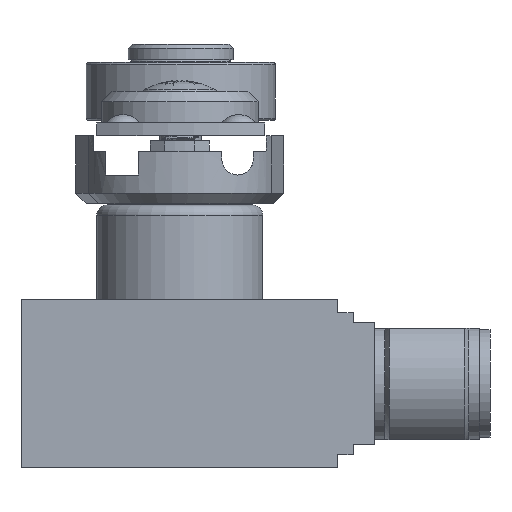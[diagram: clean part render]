
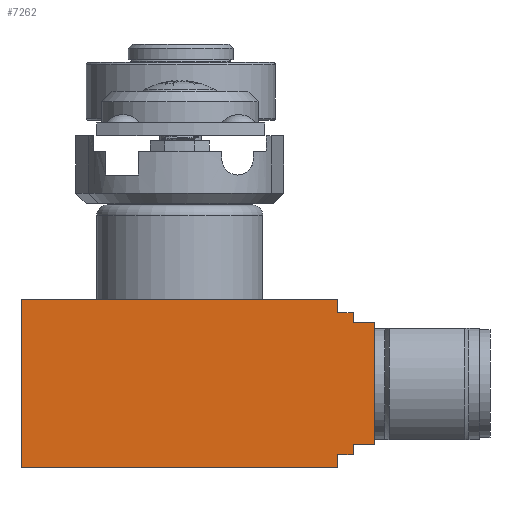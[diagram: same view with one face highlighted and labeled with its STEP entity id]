
A CAD part, front view. The second image highlights one B-rep face of the part: STEP entity #7262.
In plain terms, the highlighted planar face has unit normal (0, -1, 0) as drawn and (0, 0, -1) by its records, which use the part's own axes.
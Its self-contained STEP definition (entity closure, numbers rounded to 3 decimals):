
#277=PLANE('',#7960);
#500=FACE_OUTER_BOUND('',#915,.T.);
#915=EDGE_LOOP('',(#5072,#5073,#5074,#5075,#5076,#5077,#5078,#5079,#5080,
#5081,#5082,#5083));
#1364=LINE('',#11210,#1981);
#1367=LINE('',#11214,#1984);
#1369=LINE('',#11219,#1986);
#1371=LINE('',#11222,#1988);
#1372=LINE('',#11224,#1989);
#1379=LINE('',#11281,#1996);
#1382=LINE('',#11288,#1999);
#1385=LINE('',#11293,#2002);
#1386=LINE('',#11295,#2003);
#1387=LINE('',#11298,#2004);
#1388=LINE('',#11300,#2005);
#1389=LINE('',#11301,#2006);
#1981=VECTOR('',#8943,1.25);
#1984=VECTOR('',#8946,1.25);
#1986=VECTOR('',#8950,16.);
#1988=VECTOR('',#8954,30.);
#1989=VECTOR('',#8957,30.);
#1996=VECTOR('',#8990,0.95);
#1999=VECTOR('',#8995,0.95);
#2002=VECTOR('',#9002,1.5);
#2003=VECTOR('',#9005,1.5);
#2004=VECTOR('',#9008,2.);
#2005=VECTOR('',#9009,11.6);
#2006=VECTOR('',#9010,2.);
#3012=VERTEX_POINT('',#11203);
#3014=VERTEX_POINT('',#11207);
#3015=VERTEX_POINT('',#11209);
#3016=VERTEX_POINT('',#11212);
#3017=VERTEX_POINT('',#11216);
#3018=VERTEX_POINT('',#11218);
#3028=VERTEX_POINT('',#11274);
#3030=VERTEX_POINT('',#11278);
#3031=VERTEX_POINT('',#11280);
#3034=VERTEX_POINT('',#11286);
#3035=VERTEX_POINT('',#11297);
#3036=VERTEX_POINT('',#11299);
#3788=EDGE_CURVE('',#3014,#3015,#1364,.T.);
#3791=EDGE_CURVE('',#3016,#3012,#1367,.T.);
#3793=EDGE_CURVE('',#3017,#3018,#1369,.T.);
#3795=EDGE_CURVE('',#3015,#3017,#1371,.T.);
#3796=EDGE_CURVE('',#3018,#3016,#1372,.T.);
#3816=EDGE_CURVE('',#3031,#3030,#1379,.T.);
#3820=EDGE_CURVE('',#3028,#3034,#1382,.T.);
#3823=EDGE_CURVE('',#3014,#3031,#1385,.T.);
#3824=EDGE_CURVE('',#3012,#3034,#1386,.T.);
#3825=EDGE_CURVE('',#3030,#3035,#1387,.T.);
#3826=EDGE_CURVE('',#3035,#3036,#1388,.T.);
#3827=EDGE_CURVE('',#3028,#3036,#1389,.T.);
#5072=ORIENTED_EDGE('',*,*,#3825,.T.);
#5073=ORIENTED_EDGE('',*,*,#3826,.T.);
#5074=ORIENTED_EDGE('',*,*,#3827,.F.);
#5075=ORIENTED_EDGE('',*,*,#3820,.T.);
#5076=ORIENTED_EDGE('',*,*,#3824,.F.);
#5077=ORIENTED_EDGE('',*,*,#3791,.F.);
#5078=ORIENTED_EDGE('',*,*,#3796,.F.);
#5079=ORIENTED_EDGE('',*,*,#3793,.F.);
#5080=ORIENTED_EDGE('',*,*,#3795,.F.);
#5081=ORIENTED_EDGE('',*,*,#3788,.F.);
#5082=ORIENTED_EDGE('',*,*,#3823,.T.);
#5083=ORIENTED_EDGE('',*,*,#3816,.T.);
#7262=ADVANCED_FACE('',(#500),#277,.T.);
#7960=AXIS2_PLACEMENT_3D('',#11296,#9006,#9007);
#8943=DIRECTION('',(0.,1.,0.));
#8946=DIRECTION('',(0.,1.,0.));
#8950=DIRECTION('',(0.,-1.,0.));
#8954=DIRECTION('',(-1.,0.,0.));
#8957=DIRECTION('',(1.,0.,0.));
#8990=DIRECTION('',(0.,-1.,0.));
#8995=DIRECTION('',(0.,-1.,0.));
#9002=DIRECTION('',(1.,0.,0.));
#9005=DIRECTION('',(1.,0.,0.));
#9006=DIRECTION('center_axis',(0.,0.,-1.));
#9007=DIRECTION('ref_axis',(-1.,0.,0.));
#9008=DIRECTION('',(1.,0.,0.));
#9009=DIRECTION('',(0.,-1.,0.));
#9010=DIRECTION('',(1.,0.,0.));
#11203=CARTESIAN_POINT('',(15.,-14.75,-43.));
#11207=CARTESIAN_POINT('',(15.,-1.25,-43.));
#11209=CARTESIAN_POINT('',(15.,0.,-43.));
#11210=CARTESIAN_POINT('',(15.,-1.25,-43.));
#11212=CARTESIAN_POINT('',(15.,-16.,-43.));
#11214=CARTESIAN_POINT('',(15.,-16.,-43.));
#11216=CARTESIAN_POINT('',(-15.,0.,-43.));
#11218=CARTESIAN_POINT('',(-15.,-16.,-43.));
#11219=CARTESIAN_POINT('',(-15.,0.,-43.));
#11222=CARTESIAN_POINT('',(15.,0.,-43.));
#11224=CARTESIAN_POINT('',(-15.,-16.,-43.));
#11274=CARTESIAN_POINT('',(16.5,-13.8,-43.));
#11278=CARTESIAN_POINT('',(16.5,-2.2,-43.));
#11280=CARTESIAN_POINT('',(16.5,-1.25,-43.));
#11281=CARTESIAN_POINT('',(16.5,-1.25,-43.));
#11286=CARTESIAN_POINT('',(16.5,-14.75,-43.));
#11288=CARTESIAN_POINT('',(16.5,-13.8,-43.));
#11293=CARTESIAN_POINT('',(15.,-1.25,-43.));
#11295=CARTESIAN_POINT('',(15.,-14.75,-43.));
#11296=CARTESIAN_POINT('Origin',(15.,-2.2,-43.));
#11297=CARTESIAN_POINT('',(18.5,-2.2,-43.));
#11298=CARTESIAN_POINT('',(16.5,-2.2,-43.));
#11299=CARTESIAN_POINT('',(18.5,-13.8,-43.));
#11300=CARTESIAN_POINT('',(18.5,-2.2,-43.));
#11301=CARTESIAN_POINT('',(16.5,-13.8,-43.));
